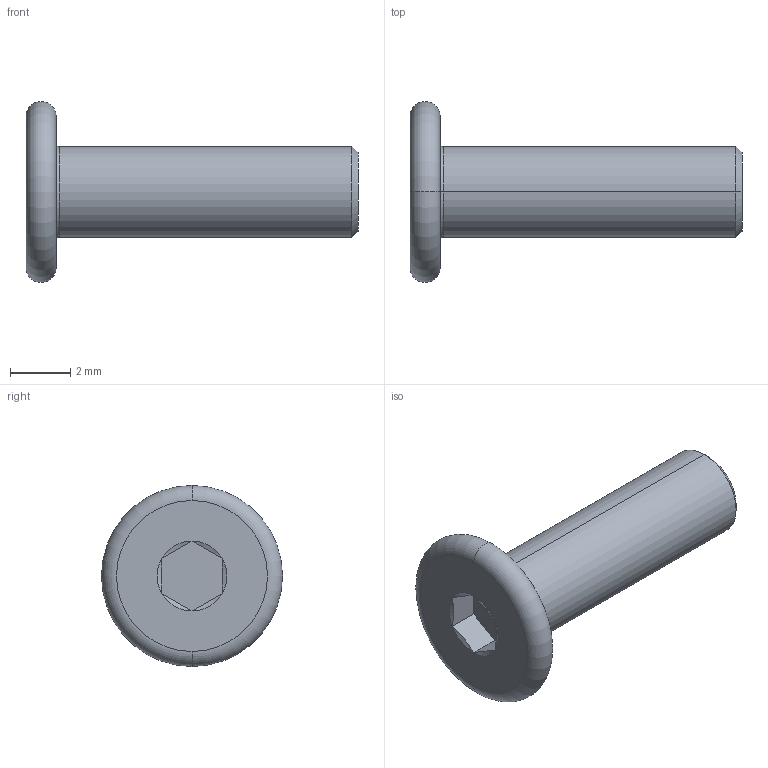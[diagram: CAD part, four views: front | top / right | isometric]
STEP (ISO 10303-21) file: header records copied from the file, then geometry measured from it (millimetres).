
FILE_DESCRIPTION (( 'STEP AP203' ), '1' );
FILE_NAME ('LGD-304M-M3x10.STEP', '2026-08-13T09:32:15', ( '' ), ( '' ), 'SwSTEP 2.0', 'SolidWorks 2020', '' );
FILE_SCHEMA (( 'CONFIG_CONTROL_DESIGN' ));
Length unit declared in the file: millimetre
Products named in the file (1): LGD-304M-M3x10
Bounding box: 11 x 6 x 6 mm (x, y, z)
Volume: 93.4 mm3; surface area: 166.5 mm2
Topology: 1 solids, 1 shells, 24 faces, 44 edges, 24 vertices
Faces by surface type: plane 10, cone 8, torus 4, cylinder 2
Entity records: 677 total; most frequent: CARTESIAN_POINT 123, DIRECTION 110, ORIENTED_EDGE 88, AXIS2_PLACEMENT_3D 47, EDGE_CURVE 44, EDGE_LOOP 26, FACE_OUTER_BOUND 24, ADVANCED_FACE 24
